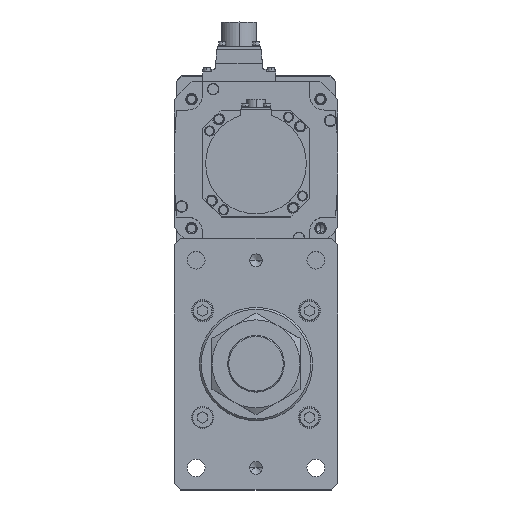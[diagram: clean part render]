
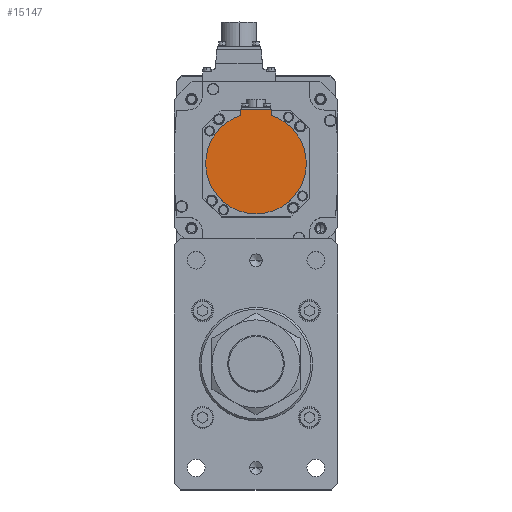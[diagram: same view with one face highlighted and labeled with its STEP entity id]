
A CAD part, top view. The second image highlights one B-rep face of the part: STEP entity #15147.
In plain terms, the highlighted planar face has unit normal (0, 0, 1) as drawn and (0, 0, -1) by its records, which use the part's own axes.
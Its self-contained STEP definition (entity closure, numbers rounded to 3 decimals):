
#391 = CARTESIAN_POINT ( 'NONE',  ( -40., 0., -146.5 ) ) ;
#1520 = LINE ( 'NONE', #4416, #28659 ) ;
#1919 = CARTESIAN_POINT ( 'NONE',  ( 0., -42.5, -146.5 ) ) ;
#2662 = VERTEX_POINT ( 'NONE', #24544 ) ;
#3590 = CARTESIAN_POINT ( 'NONE',  ( 12., -42.5, -146.5 ) ) ;
#3982 = VERTEX_POINT ( 'NONE', #25783 ) ;
#4416 = CARTESIAN_POINT ( 'NONE',  ( 12., -1.249, -146.5 ) ) ;
#5815 = DIRECTION ( 'NONE',  ( 1., 0., 0. ) ) ;
#6235 = FACE_OUTER_BOUND ( 'NONE', #19263, .T. ) ;
#6503 = DIRECTION ( 'NONE',  ( 1., 0., 0. ) ) ;
#8061 = VERTEX_POINT ( 'NONE', #3590 ) ;
#9022 = CIRCLE ( 'NONE', #32884, 40. ) ;
#9126 = VECTOR ( 'NONE', #20262, 1000. ) ;
#9525 = CARTESIAN_POINT ( 'NONE',  ( 0., 0., -146.5 ) ) ;
#10934 = AXIS2_PLACEMENT_3D ( 'NONE', #13488, #13965, #6503 ) ;
#11231 = CIRCLE ( 'NONE', #18610, 40. ) ;
#12102 = VERTEX_POINT ( 'NONE', #30260 ) ;
#12354 = EDGE_CURVE ( 'NONE', #8061, #2662, #1520, .T. ) ;
#13488 = CARTESIAN_POINT ( 'NONE',  ( 0., -1.249, -146.5 ) ) ;
#13965 = DIRECTION ( 'NONE',  ( 0., 0., 1. ) ) ;
#14649 = VERTEX_POINT ( 'NONE', #391 ) ;
#15083 = VERTEX_POINT ( 'NONE', #29377 ) ;
#15147 = ADVANCED_FACE ( 'NONE', ( #6235 ), #29618, .F. ) ;
#15429 = AXIS2_PLACEMENT_3D ( 'NONE', #31867, #15989, #21132 ) ;
#15648 = ORIENTED_EDGE ( 'NONE', *, *, #12354, .F. ) ;
#15989 = DIRECTION ( 'NONE',  ( 0., 0., 1. ) ) ;
#16112 = EDGE_CURVE ( 'NONE', #8061, #15083, #22088, .T. ) ;
#17194 = ORIENTED_EDGE ( 'NONE', *, *, #24322, .T. ) ;
#17843 = ORIENTED_EDGE ( 'NONE', *, *, #31907, .F. ) ;
#18610 = AXIS2_PLACEMENT_3D ( 'NONE', #27063, #21806, #5815 ) ;
#19263 = EDGE_LOOP ( 'NONE', ( #17194, #34099, #27258, #17843, #15648, #29071 ) ) ;
#20262 = DIRECTION ( 'NONE',  ( -1., 0., 0. ) ) ;
#21132 = DIRECTION ( 'NONE',  ( 1., 0., 0. ) ) ;
#21806 = DIRECTION ( 'NONE',  ( 0., 0., 1. ) ) ;
#22088 = LINE ( 'NONE', #1919, #9126 ) ;
#22765 = DIRECTION ( 'NONE',  ( 0., 1., 0. ) ) ;
#24318 = EDGE_CURVE ( 'NONE', #14649, #12102, #11231, .T. ) ;
#24322 = EDGE_CURVE ( 'NONE', #15083, #12102, #31721, .T. ) ;
#24544 = CARTESIAN_POINT ( 'NONE',  ( 12., -38.158, -146.5 ) ) ;
#24614 = DIRECTION ( 'NONE',  ( 0., 1., 0. ) ) ;
#25619 = DIRECTION ( 'NONE',  ( 0., 0., 1. ) ) ;
#25697 = CIRCLE ( 'NONE', #15429, 40. ) ;
#25783 = CARTESIAN_POINT ( 'NONE',  ( 40., 0., -146.5 ) ) ;
#27063 = CARTESIAN_POINT ( 'NONE',  ( 0., 0., -146.5 ) ) ;
#27258 = ORIENTED_EDGE ( 'NONE', *, *, #31213, .F. ) ;
#28659 = VECTOR ( 'NONE', #22765, 1000. ) ;
#29071 = ORIENTED_EDGE ( 'NONE', *, *, #16112, .T. ) ;
#29377 = CARTESIAN_POINT ( 'NONE',  ( -12., -42.5, -146.5 ) ) ;
#29618 = PLANE ( 'NONE',  #10934 ) ;
#30260 = CARTESIAN_POINT ( 'NONE',  ( -12., -38.158, -146.5 ) ) ;
#31213 = EDGE_CURVE ( 'NONE', #3982, #14649, #9022, .T. ) ;
#31721 = LINE ( 'NONE', #32346, #34624 ) ;
#31867 = CARTESIAN_POINT ( 'NONE',  ( 0., 0., -146.5 ) ) ;
#31907 = EDGE_CURVE ( 'NONE', #2662, #3982, #25697, .T. ) ;
#32346 = CARTESIAN_POINT ( 'NONE',  ( -12., -40.329, -146.5 ) ) ;
#32884 = AXIS2_PLACEMENT_3D ( 'NONE', #9525, #25619, #33554 ) ;
#33554 = DIRECTION ( 'NONE',  ( 1., 0., 0. ) ) ;
#34099 = ORIENTED_EDGE ( 'NONE', *, *, #24318, .F. ) ;
#34624 = VECTOR ( 'NONE', #24614, 1000. ) ;
